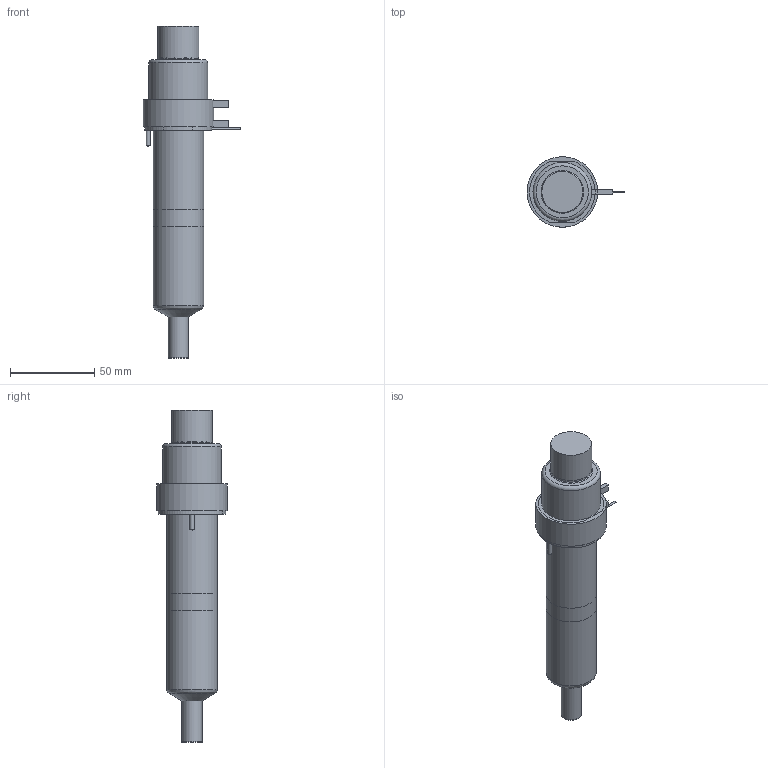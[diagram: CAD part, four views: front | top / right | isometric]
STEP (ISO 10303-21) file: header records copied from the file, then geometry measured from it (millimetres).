
FILE_DESCRIPTION(/* description */ (''),/* implementation_level */ '2;1');
FILE_NAME(/* name */ 'SXYCN16115N3U_200C_a',/* time_stamp */ '2016-03-04T13:32:45+13:00',/* author */ (''),/* organization */ (''),/* preprocessor_version */ 'ST-DEVELOPER v9',/* originating_system */ 'UGS - NX 4.0',/* authorisation */ '');
FILE_SCHEMA (('CONFIG_CONTROL_DESIGN'));
Length unit declared in the file: millimetre
Products named in the file (1): mattD74Dhei8
Bounding box: 58.25 x 42 x 197.58 mm (x, y, z)
Volume: 239271.8 mm3; surface area: 41237.6 mm2
Topology: 7 solids, 7 shells, 91 faces, 175 edges, 112 vertices
Faces by surface type: plane 45, cylinder 29, torus 8, cone 7, bspline 1, sphere 1
Full cylindrical faces by diameter (mm): 1 x3, 1.5 x1, 2.5 x2, 5 x1, 7 x1, 11.61 x1, 11.995 x2, 14.8 x1, 24 x1, 24.4 x1, 25.4 x1, 30 x2, 31.8 x1, 35 x1, 40 x1, 42 x1
Entity records: 2230 total; most frequent: CARTESIAN_POINT 435, DIRECTION 378, ORIENTED_EDGE 266, AXIS2_PLACEMENT_3D 164, EDGE_LOOP 140, EDGE_CURVE 133, VERTEX_POINT 106, ADVANCED_FACE 91
